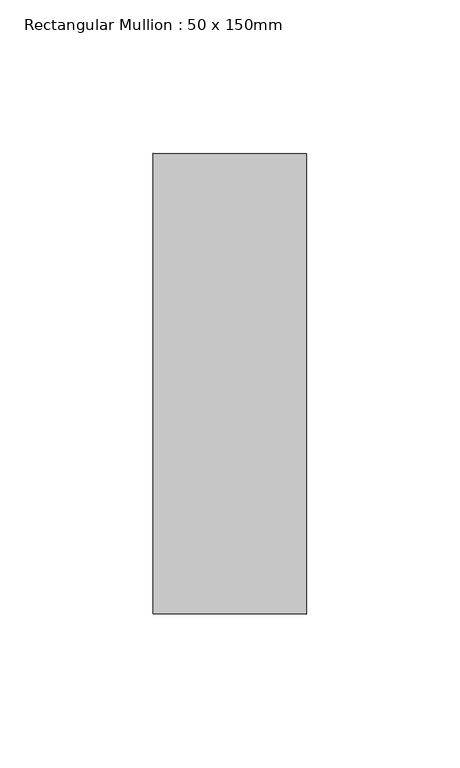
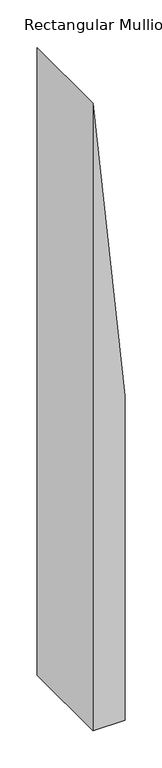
"""IFC4 building model written with IfcOpenShell, lengths in millimetres: member geometry, Rectangular Mullion : 50 x 150mm."""

import ifcopenshell
import ifcopenshell.guid

model = None  # the IFC model being written
_history = None  # IfcOwnerHistory: only IFC2X3 demands one
_inside = {}  # id of a spatial element -> (the spatial element, [elements in it])
_under = {}  # id of a project, library or spatial element -> (it, [spatial elements below it])
_declared = {}  # id of a project -> (the project, [libraries it declares])
_typed = {}  # id of a type object -> (the type object, [elements of that type])
_made_of = {}  # id of a material, layer set ... -> (it, [elements and type objects made of it])


def new_model(schema):
    """Start an empty IFC model of exactly this schema.

    Asked for "IFC4X3", IfcOpenShell would pick the latest addendum, in which some entities
    have other attributes; the version numbers below select the first issue.
    IFC2X3 requires an IfcOwnerHistory on every rooted entity: one is made here for all.
    """
    global model, _history
    if schema == "IFC4X3":
        model = ifcopenshell.file(schema_version=(4, 3, 0, 0))
    else:
        model = ifcopenshell.file(schema=schema)
    _inside.clear()
    _under.clear()
    _declared.clear()
    _typed.clear()
    _made_of.clear()
    _history = None
    if model.schema == "IFC2X3":
        org = make("IfcOrganization", Name="unknown")
        user = make(
            "IfcPersonAndOrganization",
            ThePerson=make("IfcPerson", FamilyName="unknown"),
            TheOrganization=org,
        )
        app = make(
            "IfcApplication",
            ApplicationDeveloper=org,
            Version="unknown",
            ApplicationFullName="unknown",
            ApplicationIdentifier="unknown",
        )
        _history = make(
            "IfcOwnerHistory",
            OwningUser=user,
            OwningApplication=app,
            ChangeAction="ADDED",
            CreationDate=0,
        )
    return model


def make(cls, **values):
    """One entity of the class cls with the attributes given. An attribute that is None is left unset."""
    return model.create_entity(
        cls, **{name: value for name, value in values.items() if value is not None}
    )


def rooted(cls, **values):
    """An entity with a GlobalId (a new one), such as an element, a storey or a relation."""
    return make(cls, GlobalId=ifcopenshell.guid.new(), OwnerHistory=_history, **values)


def si_unit(unit_type, name, prefix=None):
    """IfcSIUnit, for example si_unit("LENGTHUNIT", "METRE", prefix="MILLI")."""
    return make("IfcSIUnit", UnitType=unit_type, Prefix=prefix, Name=name)


def assignment(units):
    """IfcUnitAssignment: the units of a project."""
    return None if units is None else make("IfcUnitAssignment", Units=units)


def point(xyz):
    """IfcCartesianPoint."""
    return None if xyz is None else make("IfcCartesianPoint", Coordinates=xyz)


def direction(xyz):
    """IfcDirection."""
    return None if xyz is None else make("IfcDirection", DirectionRatios=xyz)


def frame(location, z_axis=None, x_axis=None):
    """IfcAxis2Placement3D, a coordinate frame: its origin and axes. An axis left out is left unset."""
    return make(
        "IfcAxis2Placement3D",
        Location=point(location),
        Axis=direction(z_axis),
        RefDirection=direction(x_axis),
    )


def origin():
    """The frame at (0, 0, 0) with its axes left unset."""
    return frame((0.0, 0.0, 0.0))


def place(relative_to, where):
    """IfcLocalPlacement: puts the frame where relative to a parent placement (None: the world)."""
    return make(
        "IfcLocalPlacement", PlacementRelTo=relative_to, RelativePlacement=where
    )


def context(
    kind, dimensions, precision=None, world=None, true_north=None, identifier=None
):
    """IfcGeometricRepresentationContext, for example the 3D "Model" context."""
    return make(
        "IfcGeometricRepresentationContext",
        ContextIdentifier=identifier,
        ContextType=kind,
        CoordinateSpaceDimension=dimensions,
        Precision=precision,
        WorldCoordinateSystem=world,
        TrueNorth=true_north,
    )


def project(units=None, contexts=None):
    """IfcProject with its units and contexts."""
    return rooted(
        "IfcProject",
        Name="project",
        RepresentationContexts=contexts,
        UnitsInContext=assignment(units),
    )


def spatial(cls, under=None, at=None, **own):
    """A site, building, storey or space (cls), placed at a placement, below another one or the project."""
    s = rooted(cls, ObjectPlacement=at, **own)
    if under is not None:
        _under.setdefault(under.id(), (under, []))[1].append(s)
    return s


def polyline(points):
    """IfcPolyline through the points."""
    return make("IfcPolyline", Points=[point(p) for p in points])


def outline(outer, holes=None, kind="AREA"):
    """IfcArbitraryClosedProfileDef: a profile drawn as a closed curve; with holes, ...WithVoids."""
    if holes is None:
        return make("IfcArbitraryClosedProfileDef", ProfileType=kind, OuterCurve=outer)
    return make(
        "IfcArbitraryProfileDefWithVoids",
        ProfileType=kind,
        OuterCurve=outer,
        InnerCurves=holes,
    )


def extrude(swept, where, along, depth):
    """IfcExtrudedAreaSolid: the profile swept, set in the frame where, extruded along a direction by depth."""
    return make(
        "IfcExtrudedAreaSolid",
        SweptArea=swept,
        Position=where,
        ExtrudedDirection=direction(along),
        Depth=depth,
    )


def shape(context_of_items, identifier, shape_type, items):
    """IfcShapeRepresentation: the items that make up one representation, for example the "Body"."""
    return make(
        "IfcShapeRepresentation",
        ContextOfItems=context_of_items,
        RepresentationIdentifier=identifier,
        RepresentationType=shape_type,
        Items=items,
    )


def source(mapping_origin, context_of_items, identifier, shape_type, items):
    """IfcRepresentationMap: a shape defined once, which mapped items show again and again."""
    return make(
        "IfcRepresentationMap",
        MappingOrigin=mapping_origin,
        MappedRepresentation=shape(context_of_items, identifier, shape_type, items),
    )


def transform(
    local_origin,
    x_axis=None,
    y_axis=None,
    z_axis=None,
    scale=None,
    scale2=None,
    scale3=None,
    uniform=True,
):
    """IfcCartesianTransformationOperator3D, or its non-uniform kind. x_axis, y_axis, z_axis: its Axis1, 2, 3."""
    if uniform:
        return make(
            "IfcCartesianTransformationOperator3D",
            Axis1=direction(x_axis),
            Axis2=direction(y_axis),
            LocalOrigin=point(local_origin),
            Scale=scale,
            Axis3=direction(z_axis),
        )
    return make(
        "IfcCartesianTransformationOperator3DnonUniform",
        Axis1=direction(x_axis),
        Axis2=direction(y_axis),
        LocalOrigin=point(local_origin),
        Scale=scale,
        Axis3=direction(z_axis),
        Scale2=scale2,
        Scale3=scale3,
    )


def mapped(mapping_source, mapping_target):
    """IfcMappedItem: shows the shape of a source again, moved by a transform."""
    return make(
        "IfcMappedItem", MappingSource=mapping_source, MappingTarget=mapping_target
    )


def made_of(thing, what):
    """Note that an element or type object is made of a material, layer set ...; save() writes the relation."""
    if what is not None:
        _made_of.setdefault(what.id(), (what, []))[1].append(thing)
    return thing


def element(
    cls,
    number,
    at=None,
    inside=None,
    cuts=None,
    type_object=None,
    material=None,
    context=None,
    identifier="Body",
    shape_type=None,
    held_by="IfcProductDefinitionShape",
    body=None,
    shapes=None,
    **own,
):
    """One element of the class cls, such as IfcWall. Its Tag is "e" and its number.

    at: its placement. inside: the storey or other place that contains it. cuts: it is an
    opening in that element (IfcRelVoidsElement). A single representation is given by context,
    identifier, shape_type and body (its items); several are given by shapes. held_by: the class
    of the entity that holds the representations. save() writes the other relations.
    """
    e = rooted(cls, Tag="e%d" % number, ObjectPlacement=at, **own)
    if body is not None:
        shapes = [shape(context, identifier, shape_type, body)]
    if shapes is not None:
        e.Representation = make(held_by, Representations=shapes)
    if inside is not None:
        _inside.setdefault(inside.id(), (inside, []))[1].append(e)
    if cuts is not None:
        rooted(
            "IfcRelVoidsElement", RelatingBuildingElement=cuts, RelatedOpeningElement=e
        )
    if type_object is not None:
        _typed.setdefault(type_object.id(), (type_object, []))[1].append(e)
    return made_of(e, material)


def aggregate(whole, parts):
    """IfcRelAggregates: a whole, such as a stair, and the parts it consists of."""
    return rooted("IfcRelAggregates", RelatingObject=whole, RelatedObjects=parts)


def save(model, path):
    """Write the relations noted so far, then the file.

    IfcRelAggregates (storeys below a building ...), IfcRelContainedInSpatialStructure (elements
    in a storey), IfcRelDefinesByType, IfcRelAssociatesMaterial and IfcRelDeclares: one each for
    every whole, place, type object, material and project.
    """
    for whole, parts in _under.values():
        aggregate(whole, parts)
    for where, things in _inside.values():
        rooted(
            "IfcRelContainedInSpatialStructure",
            RelatedElements=things,
            RelatingStructure=where,
        )
    for kind, things in _typed.values():
        rooted("IfcRelDefinesByType", RelatedObjects=things, RelatingType=kind)
    for what, things in _made_of.values():
        rooted("IfcRelAssociatesMaterial", RelatedObjects=things, RelatingMaterial=what)
    for by, libraries in _declared.values():
        rooted("IfcRelDeclares", RelatingContext=by, RelatedDefinitions=libraries)
    model.write(path)


def rectangular_mullion_50_x_150mm_7382394d(model_context):
    return source(origin(), model_context, "Body", "SweptSolid", [
        extrude(outline(polyline([(-748.406955, 25.0), (-251.1405994, -25.0), (-1280.6480741, -25.0), (-1280.6480741, 25.0), (-748.406955, 25.0)])), frame((0.0, -75.0, 0.0), z_axis=(0.0, 1.0, 0.0), x_axis=(0.0, 0.0, 1.0)), (0.0, 0.0, 1.0), 150.0),
    ])


if __name__ == "__main__":
    model = new_model("IFC4")
    model_context = context("Model", 3, world=origin())
    ifc_project = project(units=[si_unit("LENGTHUNIT", "METRE", prefix="MILLI")], contexts=[model_context])
    site = spatial("IfcSite", under=ifc_project)
    building = spatial("IfcBuilding", under=site)
    placement = place(None, origin())
    rectangular_mullion_50_x_150mm_shape = rectangular_mullion_50_x_150mm_7382394d(model_context)
    element("IfcMember", 1, ObjectType="Rectangular Mullion : 50 x 150mm", at=placement, inside=building, context=model_context, shape_type="MappedRepresentation", body=[
        mapped(rectangular_mullion_50_x_150mm_shape, transform((0.0, 0.0, 0.0), x_axis=(1.0, 0.0, 0.0), y_axis=(0.0, 1.0, 0.0), z_axis=(0.0, 0.0, 1.0))),
    ])
    save(model, "model.ifc")
